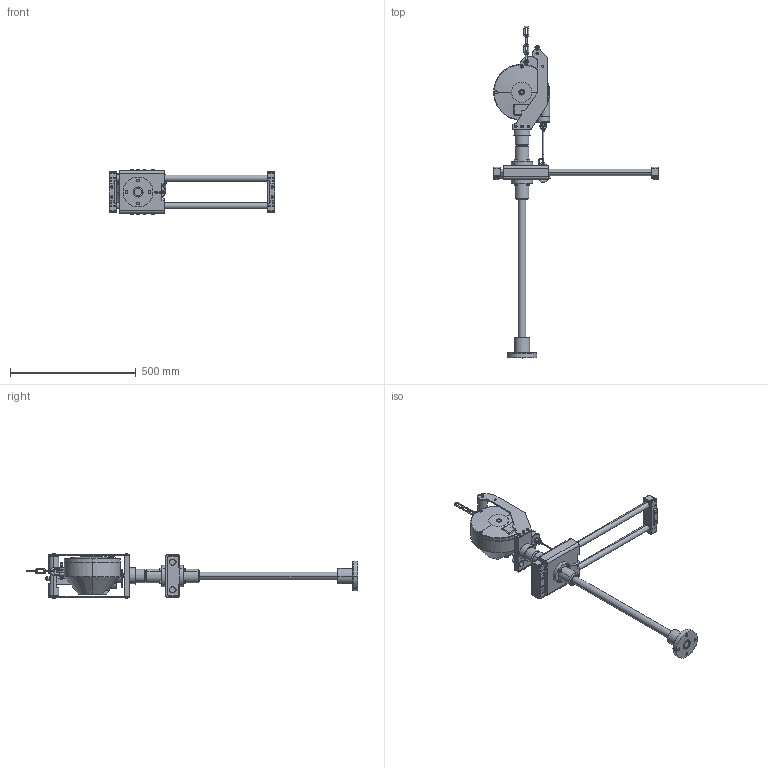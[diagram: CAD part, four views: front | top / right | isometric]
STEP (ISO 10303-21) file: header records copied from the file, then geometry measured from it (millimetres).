
FILE_DESCRIPTION((''),'2;1');
FILE_NAME('6158116600_DIM','2021-11-09T15:46:50',('S00000450'),(''),'CREO PARAMETRIC BY PTC INC, 2021072','CREO PARAMETRIC BY PTC INC, 2021072','');
FILE_SCHEMA(('AP242_MANAGED_MODEL_BASED_3D_ENGINEERING_MIM_LF { 1 0 10303 442 1 1 4 }'));
Products named in the file (1): 6158116600_DIM
Bounding box: 660 x 1322.29 x 182 mm (x, y, z)
Surface area: 919987.2 mm2 (no closed solid volume)
Topology: 0 solids, 158 shells, 982 faces, 4111 edges, 3133 vertices
Faces by surface type: cylinder 367, plane 327, cone 121, torus 114, bspline 44, sphere 9
Entity records: 55012 total; most frequent: CARTESIAN_POINT 17706, DIRECTION 6337, ORIENTED_EDGE 5954, EDGE_CURVE 4061, VERTEX_POINT 3133, AXIS2_PLACEMENT_3D 2442, CIRCLE 1504, VECTOR 1453
